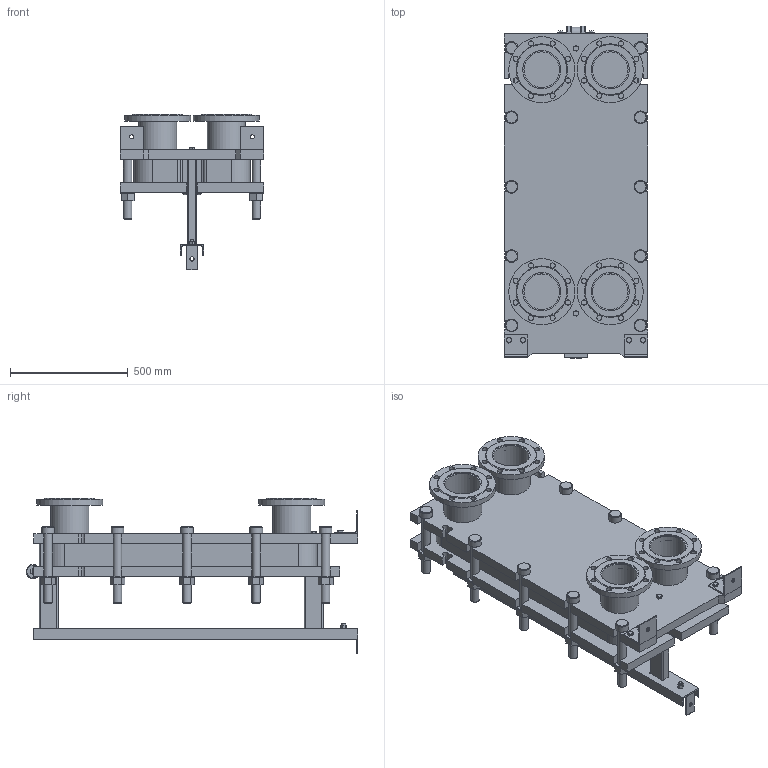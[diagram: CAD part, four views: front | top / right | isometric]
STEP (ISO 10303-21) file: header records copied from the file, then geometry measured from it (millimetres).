
FILE_DESCRIPTION(/* description */ (''),/* implementation_level */ '2;1');
FILE_NAME(/* name */ 'C:\Users\zhuro\Desktop\ENCO\TO\ЭН-041\ЭН-0,5-041-29-1.stp',/* time_stamp */ '2022-06-06T10:50:41+03:00',/* author */ ('zhuro'),/* organization */ (''),/* preprocessor_version */ 'ST-DEVELOPER v18.1',/* originating_system */ 'Autodesk Inventor 2022',/* authorisation */ '');
FILE_SCHEMA (('AUTOMOTIVE_DESIGN { 1 0 10303 214 3 1 1 }'));
Length unit declared in the file: millimetre
Products named in the file (1): ЭН-0,5-041-29-1
Bounding box: 610 x 1406.5 x 657.5 mm (x, y, z)
Volume: 131755650 mm3; surface area: 7459019.3 mm2
Topology: 52 solids, 52 shells, 711 faces, 1696 edges, 1094 vertices
Faces by surface type: plane 487, cylinder 177, cone 41, torus 6
Full cylindrical faces by diameter (mm): 8 x4, 10 x2, 16 x8, 18 x3, 22 x32, 36 x24, 50 x1, 54 x10, 60 x12, 151 x4, 161 x8, 280 x4
Entity records: 22667 total; most frequent: CARTESIAN_POINT 5230, DIRECTION 3644, ORIENTED_EDGE 3392, EDGE_CURVE 1696, AXIS2_PLACEMENT_3D 1272, LINE 1100, VECTOR 1100, VERTEX_POINT 1094
